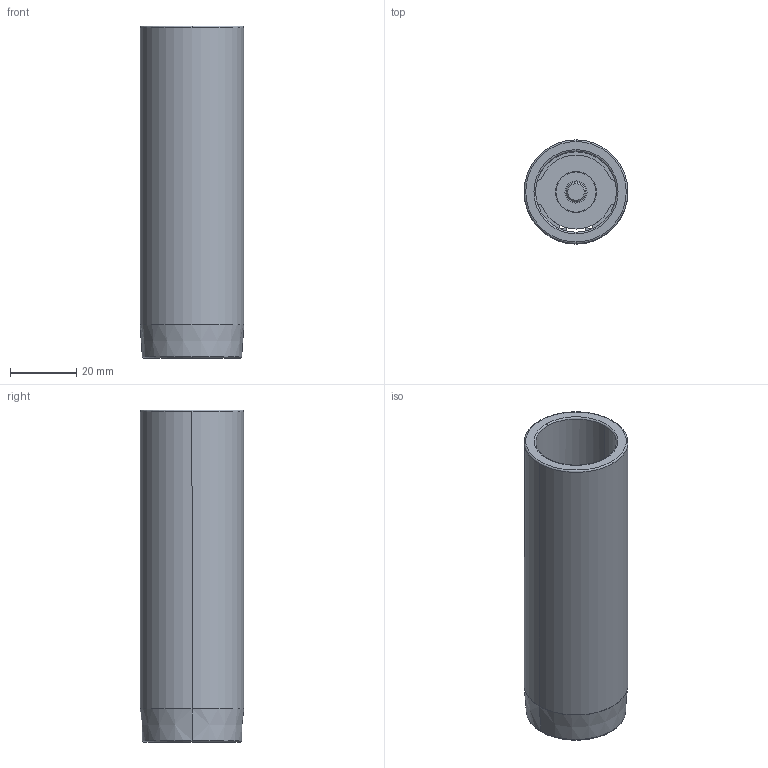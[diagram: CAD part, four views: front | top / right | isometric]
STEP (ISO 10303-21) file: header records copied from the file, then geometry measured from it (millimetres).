
FILE_DESCRIPTION((''),'2;1');
FILE_NAME('C12_024_100.stp','2009-01-28T08:30:39',(''),(''),'Mechanical Desktop 2009','Mechanical Desktop 2009',', , ');
FILE_SCHEMA(('CONFIG_CONTROL_DESIGN'));
Length unit declared in the file: millimetre
Products named in the file (2): Product; blmdl1
Assembly tree (1 placements, depth 2):
  Product
    blmdl1
Bounding box: 31.25 x 31.25 x 100 mm (x, y, z)
Volume: 30857.6 mm3; surface area: 21019.7 mm2
Topology: 5 solids, 5 shells, 79 faces, 200 edges, 134 vertices
Faces by surface type: cylinder 34, plane 29, torus 10, cone 6
Entity records: 2585 total; most frequent: DIRECTION 480, CARTESIAN_POINT 435, ORIENTED_EDGE 400, AXIS2_PLACEMENT_3D 203, EDGE_CURVE 200, VERTEX_POINT 134, CIRCLE 122, EDGE_LOOP 92
